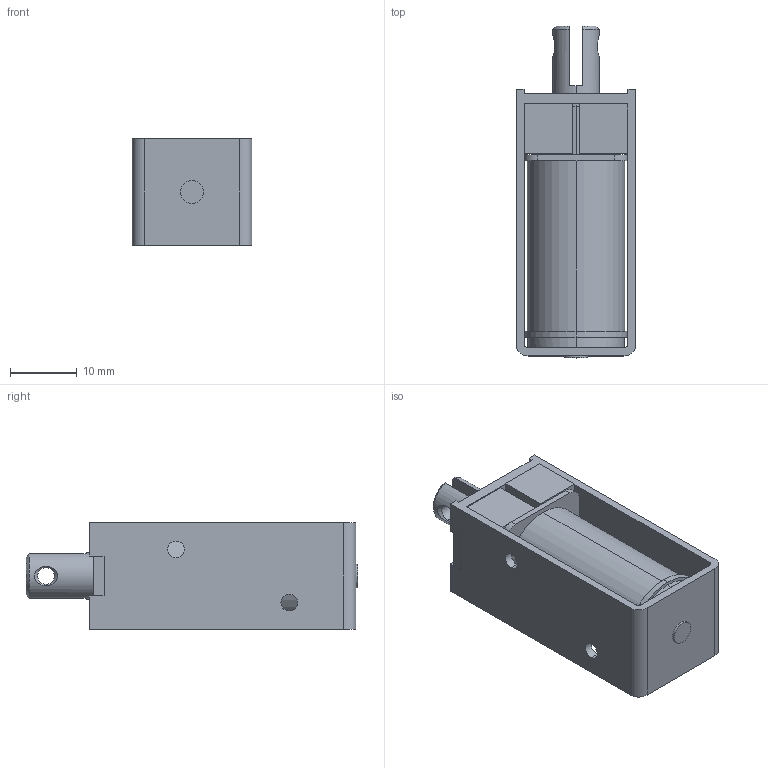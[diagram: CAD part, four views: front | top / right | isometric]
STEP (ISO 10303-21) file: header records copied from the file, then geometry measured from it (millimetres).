
FILE_DESCRIPTION (( 'STEP AP203' ), '1' );
FILE_NAME ('w_cd0740.STEP', '2014-07-25T04:27:50', ( 'jiba' ), ( 'Hewlett-Packard Company' ), 'SwSTEP 2.0', 'SolidWorks 2014', '' );
FILE_SCHEMA (( 'CONFIG_CONTROL_DESIGN' ));
Length unit declared in the file: millimetre
Products named in the file (3): Part10^w_cd0740; w_20740031A; w_cd0740
Assembly tree (2 placements, depth 2):
  w_cd0740
    Part10^w_cd0740
    w_20740031A
Bounding box: 18 x 49.8 x 16.19 mm (x, y, z)
Volume: 9124.7 mm3; surface area: 8572.3 mm2
Topology: 2 solids, 2 shells, 116 faces, 297 edges, 194 vertices
Faces by surface type: plane 69, cylinder 41, cone 6
Entity records: 3930 total; most frequent: CARTESIAN_POINT 718, DIRECTION 619, ORIENTED_EDGE 594, EDGE_CURVE 297, AXIS2_PLACEMENT_3D 211, VECTOR 197, LINE 197, VERTEX_POINT 194
